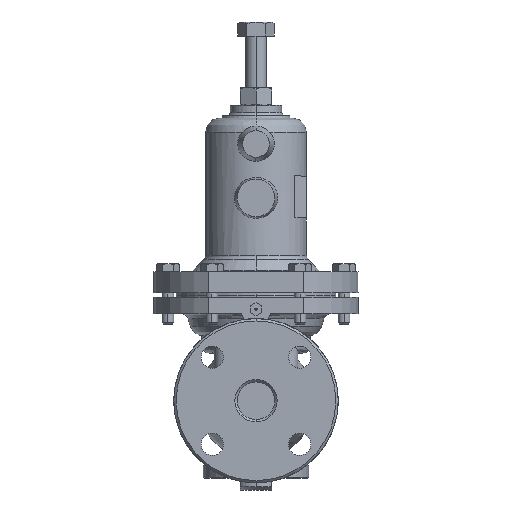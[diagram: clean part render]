
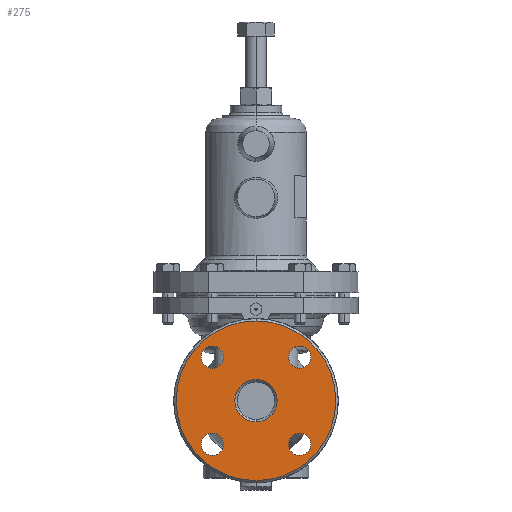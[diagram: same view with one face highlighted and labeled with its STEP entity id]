
A CAD part, left-side view. The second image highlights one B-rep face of the part: STEP entity #275.
In plain terms, the highlighted planar face has unit normal (-1, 0, 0).
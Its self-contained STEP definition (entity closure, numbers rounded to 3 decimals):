
#275=ADVANCED_FACE('',(#1905,#1906,#1907,#1908,#1909,#1910),#1904,.T.);
#1904=PLANE('',#7055);
#1905=FACE_OUTER_BOUND('',#7056,.T.);
#1906=FACE_BOUND('',#7057,.T.);
#1907=FACE_BOUND('',#7058,.T.);
#1908=FACE_BOUND('',#7059,.T.);
#1909=FACE_BOUND('',#7060,.T.);
#1910=FACE_BOUND('',#7061,.T.);
#7052=CARTESIAN_POINT('',(-97.5,-127.779,-146.));
#7053=DIRECTION('',(-1.,0.,0.));
#7054=DIRECTION('',(0.,0.,1.));
#7055=AXIS2_PLACEMENT_3D('',#7052,#7053,#7054);
#7056=EDGE_LOOP('',(#10873,#10874));
#7057=EDGE_LOOP('',(#10875,#10876));
#7058=EDGE_LOOP('',(#10877,#10878));
#7059=EDGE_LOOP('',(#10879,#10880));
#7060=EDGE_LOOP('',(#10881,#10882));
#7061=EDGE_LOOP('',(#10883,#10884));
#10873=ORIENTED_EDGE('',*,*,#13131,.T.);
#10874=ORIENTED_EDGE('',*,*,#13132,.T.);
#10875=ORIENTED_EDGE('',*,*,#13133,.F.);
#10876=ORIENTED_EDGE('',*,*,#13134,.F.);
#10877=ORIENTED_EDGE('',*,*,#13135,.F.);
#10878=ORIENTED_EDGE('',*,*,#13136,.F.);
#10879=ORIENTED_EDGE('',*,*,#13137,.F.);
#10880=ORIENTED_EDGE('',*,*,#13138,.F.);
#10881=ORIENTED_EDGE('',*,*,#13139,.F.);
#10882=ORIENTED_EDGE('',*,*,#13140,.F.);
#10883=ORIENTED_EDGE('',*,*,#13141,.F.);
#10884=ORIENTED_EDGE('',*,*,#13142,.F.);
#13131=EDGE_CURVE('',#16997,#16998,#16999,.T.);
#13132=EDGE_CURVE('',#16998,#16997,#17005,.T.);
#13133=EDGE_CURVE('',#17011,#17012,#17013,.T.);
#13134=EDGE_CURVE('',#17012,#17011,#17019,.T.);
#13135=EDGE_CURVE('',#17025,#17026,#17027,.T.);
#13136=EDGE_CURVE('',#17026,#17025,#17033,.T.);
#13137=EDGE_CURVE('',#17039,#17040,#17041,.T.);
#13138=EDGE_CURVE('',#17040,#17039,#17047,.T.);
#13139=EDGE_CURVE('',#17053,#17054,#17055,.T.);
#13140=EDGE_CURVE('',#17054,#17053,#17061,.T.);
#13141=EDGE_CURVE('',#17067,#17068,#17069,.T.);
#13142=EDGE_CURVE('',#17068,#17067,#17075,.T.);
#16997=VERTEX_POINT('',#25434);
#16998=VERTEX_POINT('',#25435);
#16999=CIRCLE('',#25439,68.);
#17005=CIRCLE('',#25443,68.);
#17011=VERTEX_POINT('',#25444);
#17012=VERTEX_POINT('',#25445);
#17013=CIRCLE('',#25449,9.5);
#17019=CIRCLE('',#25453,9.5);
#17025=VERTEX_POINT('',#25454);
#17026=VERTEX_POINT('',#25455);
#17027=CIRCLE('',#25459,9.5);
#17033=CIRCLE('',#25463,9.5);
#17039=VERTEX_POINT('',#25464);
#17040=VERTEX_POINT('',#25465);
#17041=CIRCLE('',#25469,9.5);
#17047=CIRCLE('',#25473,9.5);
#17053=VERTEX_POINT('',#25474);
#17054=VERTEX_POINT('',#25475);
#17055=CIRCLE('',#25479,18.);
#17061=CIRCLE('',#25483,18.);
#17067=VERTEX_POINT('',#25484);
#17068=VERTEX_POINT('',#25485);
#17069=CIRCLE('',#25489,9.5);
#17075=CIRCLE('',#25493,9.5);
#25434=CARTESIAN_POINT('',(-97.5,0.,68.));
#25435=CARTESIAN_POINT('',(-97.5,0.,-68.));
#25436=CARTESIAN_POINT('',(-97.5,0.,0.));
#25437=DIRECTION('',(-1.,0.,0.));
#25438=DIRECTION('',(0.,0.,1.));
#25439=AXIS2_PLACEMENT_3D('',#25436,#25437,#25438);
#25440=CARTESIAN_POINT('',(-97.5,0.,0.));
#25441=DIRECTION('',(-1.,0.,0.));
#25442=DIRECTION('',(0.,0.,1.));
#25443=AXIS2_PLACEMENT_3D('',#25440,#25441,#25442);
#25444=CARTESIAN_POINT('',(-97.5,37.123,46.623));
#25445=CARTESIAN_POINT('',(-97.5,37.123,27.623));
#25446=CARTESIAN_POINT('',(-97.5,37.123,37.123));
#25447=DIRECTION('',(-1.,0.,0.));
#25448=DIRECTION('',(0.,0.,-1.));
#25449=AXIS2_PLACEMENT_3D('',#25446,#25447,#25448);
#25450=CARTESIAN_POINT('',(-97.5,37.123,37.123));
#25451=DIRECTION('',(-1.,0.,0.));
#25452=DIRECTION('',(0.,0.,-1.));
#25453=AXIS2_PLACEMENT_3D('',#25450,#25451,#25452);
#25454=CARTESIAN_POINT('',(-97.5,-37.123,46.623));
#25455=CARTESIAN_POINT('',(-97.5,-37.123,27.623));
#25456=CARTESIAN_POINT('',(-97.5,-37.123,37.123));
#25457=DIRECTION('',(-1.,0.,0.));
#25458=DIRECTION('',(0.,0.,-1.));
#25459=AXIS2_PLACEMENT_3D('',#25456,#25457,#25458);
#25460=CARTESIAN_POINT('',(-97.5,-37.123,37.123));
#25461=DIRECTION('',(-1.,0.,0.));
#25462=DIRECTION('',(0.,0.,-1.));
#25463=AXIS2_PLACEMENT_3D('',#25460,#25461,#25462);
#25464=CARTESIAN_POINT('',(-97.5,-37.123,-27.623));
#25465=CARTESIAN_POINT('',(-97.5,-37.123,-46.623));
#25466=CARTESIAN_POINT('',(-97.5,-37.123,-37.123));
#25467=DIRECTION('',(-1.,0.,0.));
#25468=DIRECTION('',(0.,0.,-1.));
#25469=AXIS2_PLACEMENT_3D('',#25466,#25467,#25468);
#25470=CARTESIAN_POINT('',(-97.5,-37.123,-37.123));
#25471=DIRECTION('',(-1.,0.,0.));
#25472=DIRECTION('',(0.,0.,-1.));
#25473=AXIS2_PLACEMENT_3D('',#25470,#25471,#25472);
#25474=CARTESIAN_POINT('',(-97.5,0.,-18.));
#25475=CARTESIAN_POINT('',(-97.5,0.,18.));
#25476=CARTESIAN_POINT('',(-97.5,0.,0.));
#25477=DIRECTION('',(-1.,0.,0.));
#25478=DIRECTION('',(0.,0.,1.));
#25479=AXIS2_PLACEMENT_3D('',#25476,#25477,#25478);
#25480=CARTESIAN_POINT('',(-97.5,0.,0.));
#25481=DIRECTION('',(-1.,0.,0.));
#25482=DIRECTION('',(0.,0.,1.));
#25483=AXIS2_PLACEMENT_3D('',#25480,#25481,#25482);
#25484=CARTESIAN_POINT('',(-97.5,37.123,-27.623));
#25485=CARTESIAN_POINT('',(-97.5,37.123,-46.623));
#25486=CARTESIAN_POINT('',(-97.5,37.123,-37.123));
#25487=DIRECTION('',(-1.,0.,0.));
#25488=DIRECTION('',(0.,0.,-1.));
#25489=AXIS2_PLACEMENT_3D('',#25486,#25487,#25488);
#25490=CARTESIAN_POINT('',(-97.5,37.123,-37.123));
#25491=DIRECTION('',(-1.,0.,0.));
#25492=DIRECTION('',(0.,0.,-1.));
#25493=AXIS2_PLACEMENT_3D('',#25490,#25491,#25492);
